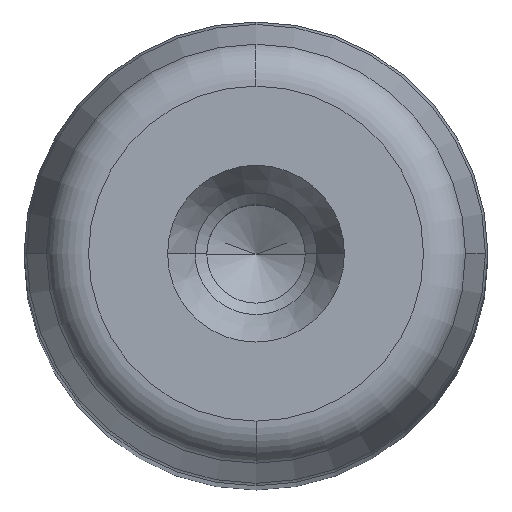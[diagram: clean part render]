
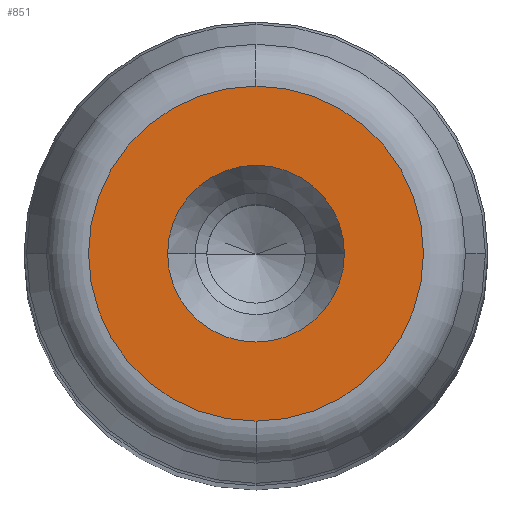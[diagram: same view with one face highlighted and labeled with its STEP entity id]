
A CAD part, top view. The second image highlights one B-rep face of the part: STEP entity #851.
In plain terms, the highlighted planar face has unit normal (0, 0, 1) as drawn and (0, 1, 0) by its records, which use the part's own axes.
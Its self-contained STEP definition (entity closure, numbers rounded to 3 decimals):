
#281=CARTESIAN_POINT('',(6.1,180.0,0.0));
#282=VERTEX_POINT('',#281);
#289=CARTESIAN_POINT('',(-6.1,180.0,0.));
#290=VERTEX_POINT('',#289);
#291=CARTESIAN_POINT('',(0.0,180.0,0.0));
#292=DIRECTION('',(0.0,1.0,0.0));
#293=DIRECTION('',(1.0,0.0,0.0));
#294=AXIS2_PLACEMENT_3D('',#291,#292,#293);
#295=CIRCLE('',#294,6.1);
#296=EDGE_CURVE('',#282,#290,#295,.T.);
#313=CARTESIAN_POINT('',(0.0,180.,11.554));
#314=VERTEX_POINT('',#313);
#324=CARTESIAN_POINT('',(0.,180.,-11.554));
#325=VERTEX_POINT('',#324);
#326=CARTESIAN_POINT('',(0.0,180.,0.0));
#327=DIRECTION('',(0.0,1.0,0.0));
#328=DIRECTION('',(1.0,0.0,0.0));
#329=AXIS2_PLACEMENT_3D('',#326,#327,#328);
#330=CIRCLE('',#329,11.554);
#331=EDGE_CURVE('',#325,#314,#330,.T.);
#812=CARTESIAN_POINT('',(11.554,180.,0.0));
#813=VERTEX_POINT('',#812);
#814=CARTESIAN_POINT('',(0.0,180.,0.0));
#815=DIRECTION('',(0.0,1.0,0.0));
#816=DIRECTION('',(1.0,0.0,0.0));
#817=AXIS2_PLACEMENT_3D('',#814,#815,#816);
#818=CIRCLE('',#817,11.554);
#819=EDGE_CURVE('',#813,#325,#818,.T.);
#821=CARTESIAN_POINT('',(0.0,180.,0.0));
#822=DIRECTION('',(0.0,1.0,0.0));
#823=DIRECTION('',(1.0,0.0,0.0));
#824=AXIS2_PLACEMENT_3D('',#821,#822,#823);
#825=CIRCLE('',#824,11.554);
#826=EDGE_CURVE('',#314,#813,#825,.T.);
#831=CARTESIAN_POINT('',(-12.71,180.0,-12.71));
#832=DIRECTION('',(0.0,1.0,0.0));
#833=DIRECTION('',(0.0,0.0,1.0));
#834=AXIS2_PLACEMENT_3D('',#831,#832,#833);
#835=PLANE('',#834);
#836=ORIENTED_EDGE('',*,*,#819,.T.);
#837=ORIENTED_EDGE('',*,*,#331,.T.);
#838=ORIENTED_EDGE('',*,*,#826,.T.);
#839=EDGE_LOOP('',(#836,#837,#838));
#840=FACE_OUTER_BOUND('',#839,.T.);
#841=ORIENTED_EDGE('',*,*,#296,.F.);
#842=CARTESIAN_POINT('',(0.0,180.0,0.0));
#843=DIRECTION('',(0.0,1.0,0.0));
#844=DIRECTION('',(1.0,0.0,0.0));
#845=AXIS2_PLACEMENT_3D('',#842,#843,#844);
#846=CIRCLE('',#845,6.1);
#847=EDGE_CURVE('',#290,#282,#846,.T.);
#848=ORIENTED_EDGE('',*,*,#847,.F.);
#849=EDGE_LOOP('',(#841,#848));
#850=FACE_BOUND('',#849,.T.);
#851=ADVANCED_FACE('',(#840,#850),#835,.T.);
